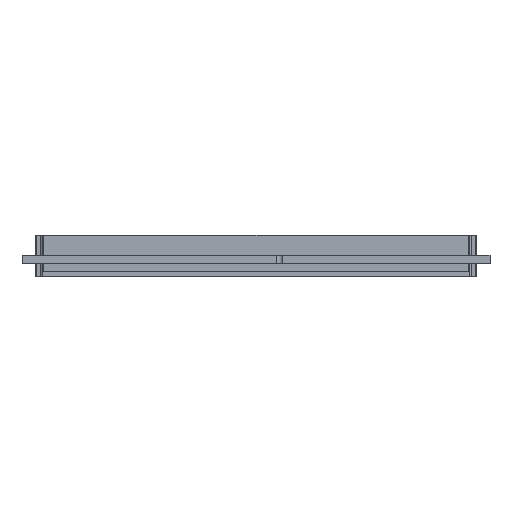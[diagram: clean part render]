
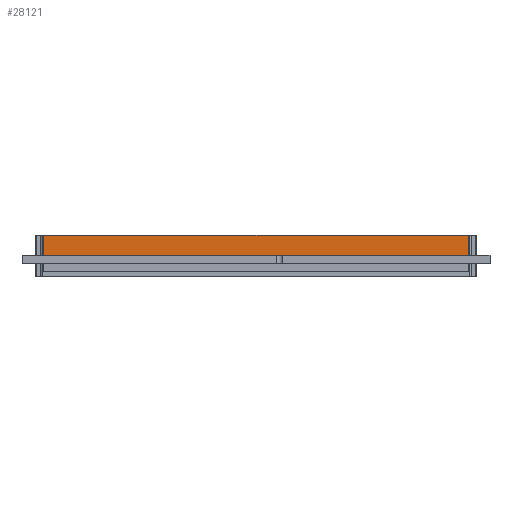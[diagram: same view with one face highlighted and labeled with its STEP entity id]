
A CAD part, front view. The second image highlights one B-rep face of the part: STEP entity #28121.
In plain terms, the highlighted planar face has unit normal (0, -1, 0).
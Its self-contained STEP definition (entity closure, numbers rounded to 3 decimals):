
#4105 = VECTOR ( 'NONE', #61359, 1000. ) ;
#4699 = LINE ( 'NONE', #62234, #67855 ) ;
#5284 = CARTESIAN_POINT ( 'NONE',  ( 3., 4., 0. ) ) ;
#7390 = CARTESIAN_POINT ( 'NONE',  ( 66.4, 4., 3. ) ) ;
#8293 = VERTEX_POINT ( 'NONE', #7390 ) ;
#8921 = CARTESIAN_POINT ( 'NONE',  ( 3.2, 4., 0. ) ) ;
#11005 = EDGE_LOOP ( 'NONE', ( #29665, #43109, #41397, #13955 ) ) ;
#11334 = DIRECTION ( 'NONE',  ( 0., 0., 1. ) ) ;
#11939 = EDGE_CURVE ( 'NONE', #51502, #8293, #4699, .T. ) ;
#13955 = ORIENTED_EDGE ( 'NONE', *, *, #46712, .T. ) ;
#18998 = VERTEX_POINT ( 'NONE', #66938 ) ;
#21351 = FACE_OUTER_BOUND ( 'NONE', #11005, .T. ) ;
#21797 = EDGE_CURVE ( 'NONE', #26456, #51502, #31380, .T. ) ;
#21921 = VECTOR ( 'NONE', #42086, 1000. ) ;
#26456 = VERTEX_POINT ( 'NONE', #48470 ) ;
#28121 = ADVANCED_FACE ( 'NONE', ( #21351 ), #31549, .F. ) ;
#29665 = ORIENTED_EDGE ( 'NONE', *, *, #21797, .T. ) ;
#31380 = LINE ( 'NONE', #5284, #21921 ) ;
#31549 = PLANE ( 'NONE',  #63495 ) ;
#32576 = DIRECTION ( 'NONE',  ( 0., 1., 0. ) ) ;
#35965 = DIRECTION ( 'NONE',  ( 0., 0., 1. ) ) ;
#38139 = DIRECTION ( 'NONE',  ( 1., 0., 0. ) ) ;
#40270 = LINE ( 'NONE', #8921, #4105 ) ;
#41397 = ORIENTED_EDGE ( 'NONE', *, *, #66735, .F. ) ;
#42086 = DIRECTION ( 'NONE',  ( 1., 0., 0. ) ) ;
#42910 = CARTESIAN_POINT ( 'NONE',  ( 3., 4., 3. ) ) ;
#42921 = CARTESIAN_POINT ( 'NONE',  ( 3., 4., 3. ) ) ;
#43109 = ORIENTED_EDGE ( 'NONE', *, *, #11939, .T. ) ;
#46712 = EDGE_CURVE ( 'NONE', #18998, #26456, #40270, .T. ) ;
#48470 = CARTESIAN_POINT ( 'NONE',  ( 3.2, 4., 0. ) ) ;
#51502 = VERTEX_POINT ( 'NONE', #57237 ) ;
#57237 = CARTESIAN_POINT ( 'NONE',  ( 66.4, 4., 0. ) ) ;
#58353 = VECTOR ( 'NONE', #38139, 1000. ) ;
#61359 = DIRECTION ( 'NONE',  ( 0., 0., -1. ) ) ;
#62234 = CARTESIAN_POINT ( 'NONE',  ( 66.4, 4., 3. ) ) ;
#63495 = AXIS2_PLACEMENT_3D ( 'NONE', #42910, #32576, #11334 ) ;
#64390 = LINE ( 'NONE', #42921, #58353 ) ;
#66735 = EDGE_CURVE ( 'NONE', #18998, #8293, #64390, .T. ) ;
#66938 = CARTESIAN_POINT ( 'NONE',  ( 3.2, 4., 3. ) ) ;
#67855 = VECTOR ( 'NONE', #35965, 1000. ) ;
